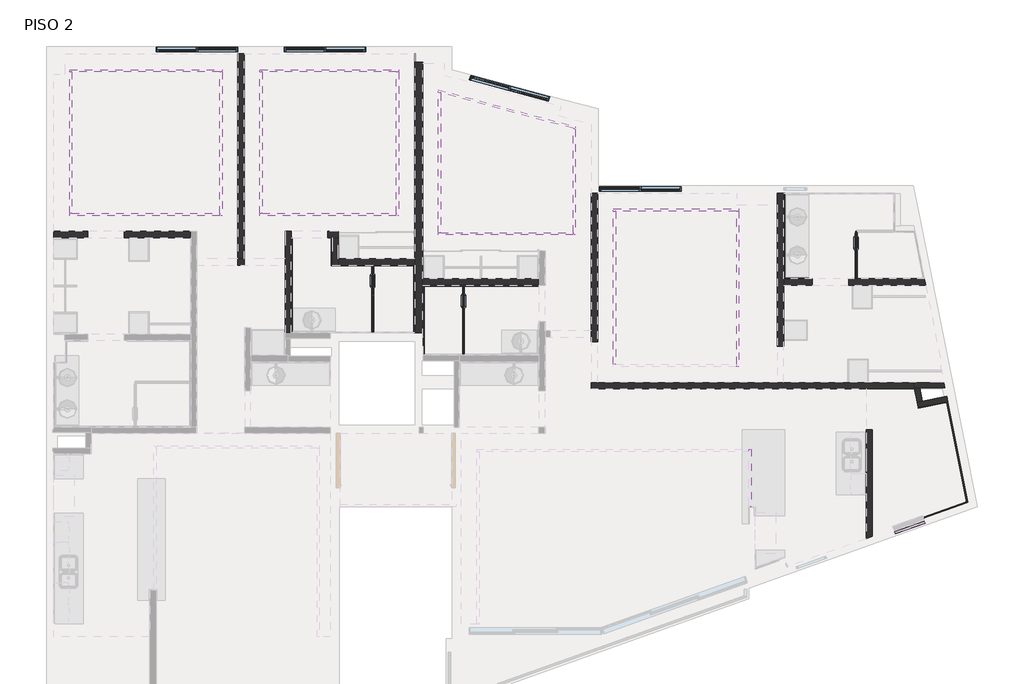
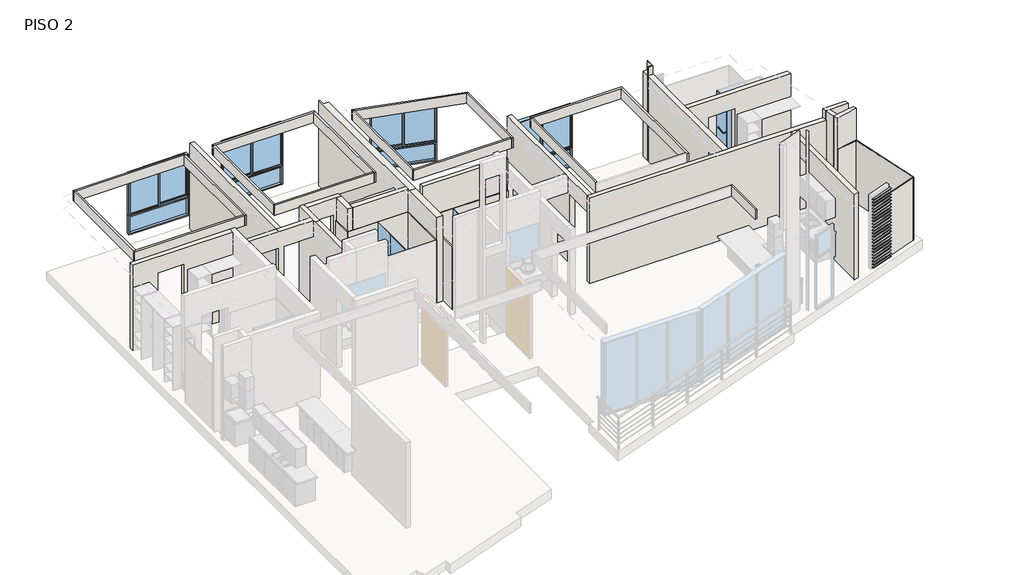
# One storey, part 2 of 3: 48 walls, 23 members, 7 windows.
"""IFC4 building model written with IfcOpenShell, lengths in millimetres."""

from ifc_helpers import new_model, si_unit, frame, origin, place, context, project, spatial, polyline, outline, extrude, faceted_brep, transform, mapped, element, save
from components import montante_rectangular_montante_rectangular_1_5x5_1b1c74e0, window_b75bd1a9, window_36b55308, window_db60b2a9, window_b7257eee, window_9818a119

model = new_model("IFC4")

# Units and contexts
model_context = context("Model", 3, world=origin())
ifc_project = project(units=[si_unit("LENGTHUNIT", "METRE", prefix="MILLI")], contexts=[model_context])

# Site, building, storey
site = spatial("IfcSite", under=ifc_project)
building = spatial("IfcBuilding", under=site)
storey = spatial("IfcBuildingStorey", under=building, Name="PISO 2", Elevation=6000.0)

# Members
placement = place(None, origin())
montante_rectangular_montante_rectangular_1_5x5_shape = montante_rectangular_montante_rectangular_1_5x5_1b1c74e0(model_context)
element("IfcMember", 1, ObjectType="Montante rectangular : Montante rectangular - 1.5x5", at=placement, inside=storey, context=model_context, shape_type="MappedRepresentation", body=[
    mapped(montante_rectangular_montante_rectangular_1_5x5_shape, transform((53319.7231991, 27770.5085935, 6091.0416667), x_axis=(0.0, 0.0, 1.0), y_axis=(0.3356769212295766, -0.9419771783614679, 0.0), z_axis=(0.9419771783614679, 0.3356769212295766, 0.0))),
])
element("IfcMember", 2, ObjectType="Montante rectangular : Montante rectangular - 1.5x5", at=placement, inside=storey, context=model_context, shape_type="MappedRepresentation", body=[
    mapped(montante_rectangular_montante_rectangular_1_5x5_shape, transform((53319.7231991, 27770.5085935, 6189.5833333), x_axis=(0.0, 0.0, 1.0), y_axis=(0.3356769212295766, -0.9419771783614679, 0.0), z_axis=(0.9419771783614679, 0.3356769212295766, 0.0))),
])
element("IfcMember", 3, ObjectType="Montante rectangular : Montante rectangular - 1.5x5", at=placement, inside=storey, context=model_context, shape_type="MappedRepresentation", body=[
    mapped(montante_rectangular_montante_rectangular_1_5x5_shape, transform((53319.7231991, 27770.5085935, 6288.125), x_axis=(0.0, 0.0, 1.0), y_axis=(0.3356769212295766, -0.9419771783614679, 0.0), z_axis=(0.9419771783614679, 0.3356769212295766, 0.0))),
])
element("IfcMember", 4, ObjectType="Montante rectangular : Montante rectangular - 1.5x5", at=placement, inside=storey, context=model_context, shape_type="MappedRepresentation", body=[
    mapped(montante_rectangular_montante_rectangular_1_5x5_shape, transform((53319.7231991, 27770.5085935, 6386.6666667), x_axis=(0.0, 0.0, 1.0), y_axis=(0.3356769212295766, -0.9419771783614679, 0.0), z_axis=(0.9419771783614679, 0.3356769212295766, 0.0))),
])
element("IfcMember", 5, ObjectType="Montante rectangular : Montante rectangular - 1.5x5", at=placement, inside=storey, context=model_context, shape_type="MappedRepresentation", body=[
    mapped(montante_rectangular_montante_rectangular_1_5x5_shape, transform((53319.7231991, 27770.5085935, 6485.2083333), x_axis=(0.0, 0.0, 1.0), y_axis=(0.3356769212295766, -0.9419771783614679, 0.0), z_axis=(0.9419771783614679, 0.3356769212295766, 0.0))),
])
element("IfcMember", 6, ObjectType="Montante rectangular : Montante rectangular - 1.5x5", at=placement, inside=storey, context=model_context, shape_type="MappedRepresentation", body=[
    mapped(montante_rectangular_montante_rectangular_1_5x5_shape, transform((53319.7231991, 27770.5085935, 6583.75), x_axis=(0.0, 0.0, 1.0), y_axis=(0.3356769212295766, -0.9419771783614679, 0.0), z_axis=(0.9419771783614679, 0.3356769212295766, 0.0))),
])
element("IfcMember", 7, ObjectType="Montante rectangular : Montante rectangular - 1.5x5", at=placement, inside=storey, context=model_context, shape_type="MappedRepresentation", body=[
    mapped(montante_rectangular_montante_rectangular_1_5x5_shape, transform((53319.7231991, 27770.5085935, 6682.2916667), x_axis=(0.0, 0.0, 1.0), y_axis=(0.3356769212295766, -0.9419771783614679, 0.0), z_axis=(0.9419771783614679, 0.3356769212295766, 0.0))),
])
element("IfcMember", 8, ObjectType="Montante rectangular : Montante rectangular - 1.5x5", at=placement, inside=storey, context=model_context, shape_type="MappedRepresentation", body=[
    mapped(montante_rectangular_montante_rectangular_1_5x5_shape, transform((53319.7231991, 27770.5085935, 6780.8333333), x_axis=(0.0, 0.0, 1.0), y_axis=(0.3356769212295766, -0.9419771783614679, 0.0), z_axis=(0.9419771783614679, 0.3356769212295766, 0.0))),
])
element("IfcMember", 9, ObjectType="Montante rectangular : Montante rectangular - 1.5x5", at=placement, inside=storey, context=model_context, shape_type="MappedRepresentation", body=[
    mapped(montante_rectangular_montante_rectangular_1_5x5_shape, transform((53319.7231991, 27770.5085935, 6879.375), x_axis=(0.0, 0.0, 1.0), y_axis=(0.3356769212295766, -0.9419771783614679, 0.0), z_axis=(0.9419771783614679, 0.3356769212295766, 0.0))),
])
element("IfcMember", 10, ObjectType="Montante rectangular : Montante rectangular - 1.5x5", at=placement, inside=storey, context=model_context, shape_type="MappedRepresentation", body=[
    mapped(montante_rectangular_montante_rectangular_1_5x5_shape, transform((53319.7231991, 27770.5085935, 6977.9166667), x_axis=(0.0, 0.0, 1.0), y_axis=(0.3356769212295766, -0.9419771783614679, 0.0), z_axis=(0.9419771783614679, 0.3356769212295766, 0.0))),
])
element("IfcMember", 11, ObjectType="Montante rectangular : Montante rectangular - 1.5x5", at=placement, inside=storey, context=model_context, shape_type="MappedRepresentation", body=[
    mapped(montante_rectangular_montante_rectangular_1_5x5_shape, transform((53319.7231991, 27770.5085935, 7076.4583333), x_axis=(0.0, 0.0, 1.0), y_axis=(0.3356769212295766, -0.9419771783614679, 0.0), z_axis=(0.9419771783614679, 0.3356769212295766, 0.0))),
])
element("IfcMember", 12, ObjectType="Montante rectangular : Montante rectangular - 1.5x5", at=placement, inside=storey, context=model_context, shape_type="MappedRepresentation", body=[
    mapped(montante_rectangular_montante_rectangular_1_5x5_shape, transform((53319.7231991, 27770.5085935, 7175.0), x_axis=(0.0, 0.0, 1.0), y_axis=(0.3356769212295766, -0.9419771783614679, 0.0), z_axis=(0.9419771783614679, 0.3356769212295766, 0.0))),
])
element("IfcMember", 13, ObjectType="Montante rectangular : Montante rectangular - 1.5x5", at=placement, inside=storey, context=model_context, shape_type="MappedRepresentation", body=[
    mapped(montante_rectangular_montante_rectangular_1_5x5_shape, transform((53319.7231991, 27770.5085935, 7273.5416667), x_axis=(0.0, 0.0, 1.0), y_axis=(0.3356769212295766, -0.9419771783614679, 0.0), z_axis=(0.9419771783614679, 0.3356769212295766, 0.0))),
])
element("IfcMember", 14, ObjectType="Montante rectangular : Montante rectangular - 1.5x5", at=placement, inside=storey, context=model_context, shape_type="MappedRepresentation", body=[
    mapped(montante_rectangular_montante_rectangular_1_5x5_shape, transform((53319.7231991, 27770.5085935, 7372.0833333), x_axis=(0.0, 0.0, 1.0), y_axis=(0.3356769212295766, -0.9419771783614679, 0.0), z_axis=(0.9419771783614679, 0.3356769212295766, 0.0))),
])
element("IfcMember", 15, ObjectType="Montante rectangular : Montante rectangular - 1.5x5", at=placement, inside=storey, context=model_context, shape_type="MappedRepresentation", body=[
    mapped(montante_rectangular_montante_rectangular_1_5x5_shape, transform((53319.7231991, 27770.5085935, 7470.625), x_axis=(0.0, 0.0, 1.0), y_axis=(0.3356769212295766, -0.9419771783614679, 0.0), z_axis=(0.9419771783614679, 0.3356769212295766, 0.0))),
])
element("IfcMember", 16, ObjectType="Montante rectangular : Montante rectangular - 1.5x5", at=placement, inside=storey, context=model_context, shape_type="MappedRepresentation", body=[
    mapped(montante_rectangular_montante_rectangular_1_5x5_shape, transform((53319.7231991, 27770.5085935, 7569.1666667), x_axis=(0.0, 0.0, 1.0), y_axis=(0.3356769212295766, -0.9419771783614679, 0.0), z_axis=(0.9419771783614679, 0.3356769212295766, 0.0))),
])
element("IfcMember", 17, ObjectType="Montante rectangular : Montante rectangular - 1.5x5", at=placement, inside=storey, context=model_context, shape_type="MappedRepresentation", body=[
    mapped(montante_rectangular_montante_rectangular_1_5x5_shape, transform((53319.7231991, 27770.5085935, 7667.7083333), x_axis=(0.0, 0.0, 1.0), y_axis=(0.3356769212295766, -0.9419771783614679, 0.0), z_axis=(0.9419771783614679, 0.3356769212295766, 0.0))),
])
element("IfcMember", 18, ObjectType="Montante rectangular : Montante rectangular - 1.5x5", at=placement, inside=storey, context=model_context, shape_type="MappedRepresentation", body=[
    mapped(montante_rectangular_montante_rectangular_1_5x5_shape, transform((53319.7231991, 27770.5085935, 7766.25), x_axis=(0.0, 0.0, 1.0), y_axis=(0.3356769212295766, -0.9419771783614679, 0.0), z_axis=(0.9419771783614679, 0.3356769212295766, 0.0))),
])
element("IfcMember", 19, ObjectType="Montante rectangular : Montante rectangular - 1.5x5", at=placement, inside=storey, context=model_context, shape_type="MappedRepresentation", body=[
    mapped(montante_rectangular_montante_rectangular_1_5x5_shape, transform((53319.7231991, 27770.5085935, 7864.7916667), x_axis=(0.0, 0.0, 1.0), y_axis=(0.3356769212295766, -0.9419771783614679, 0.0), z_axis=(0.9419771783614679, 0.3356769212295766, 0.0))),
])
element("IfcMember", 20, ObjectType="Montante rectangular : Montante rectangular - 1.5x5", at=placement, inside=storey, context=model_context, shape_type="MappedRepresentation", body=[
    mapped(montante_rectangular_montante_rectangular_1_5x5_shape, transform((53319.7231991, 27770.5085935, 7963.3333333), x_axis=(0.0, 0.0, 1.0), y_axis=(0.3356769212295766, -0.9419771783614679, 0.0), z_axis=(0.9419771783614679, 0.3356769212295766, 0.0))),
])
element("IfcMember", 21, ObjectType="Montante rectangular : Montante rectangular - 1.5x5", at=placement, inside=storey, context=model_context, shape_type="MappedRepresentation", body=[
    mapped(montante_rectangular_montante_rectangular_1_5x5_shape, transform((53319.7231991, 27770.5085935, 8061.875), x_axis=(0.0, 0.0, 1.0), y_axis=(0.3356769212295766, -0.9419771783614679, 0.0), z_axis=(0.9419771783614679, 0.3356769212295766, 0.0))),
])
element("IfcMember", 22, ObjectType="Montante rectangular : Montante rectangular - 1.5x5", at=placement, inside=storey, context=model_context, shape_type="MappedRepresentation", body=[
    mapped(montante_rectangular_montante_rectangular_1_5x5_shape, transform((53319.7231991, 27770.5085935, 8160.4166667), x_axis=(0.0, 0.0, 1.0), y_axis=(0.3356769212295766, -0.9419771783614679, 0.0), z_axis=(0.9419771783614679, 0.3356769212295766, 0.0))),
])
element("IfcMember", 23, ObjectType="Montante rectangular : Montante rectangular - 1.5x5", at=placement, inside=storey, context=model_context, shape_type="MappedRepresentation", body=[
    mapped(montante_rectangular_montante_rectangular_1_5x5_shape, transform((53319.7231991, 27770.5085935, 8258.9583333), x_axis=(0.0, 0.0, 1.0), y_axis=(0.3356769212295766, -0.9419771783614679, 0.0), z_axis=(0.9419771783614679, 0.3356769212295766, 0.0))),
])

# Walls
element("IfcWall", 24, ObjectType="Muro block 12cms_int_ductos", at=placement, inside=storey, context=model_context, shape_type="Brep", body=[
    faceted_brep([(53085.5419689, 30724.0100923, 9000.0), (53085.5419689, 30724.0100923, 6000.0), (53207.9252394, 30724.0100923, 6000.0), (53760.5143431, 30724.0100923, 6000.0), (53760.5143431, 30724.0100923, 9000.0), (53207.9252394, 30724.0100923, 9000.0), (53061.5073088, 30844.0100923, 6000.0), (53061.5073088, 30844.0100923, 8720.0), (53061.5073088, 30844.0100923, 9000.0), (53736.479683, 30844.0100923, 9000.0), (53736.479683, 30844.0100923, 6000.0)], [[[0, 1, 2, 3, 4, 5]], [[6, 7, 8, 9, 10]], [[3, 2, 1, 6, 10]], [[0, 5, 4, 9, 8]], [[0, 8, 7, 6, 1]], [[4, 3, 10, 9]]]),
])
element("IfcWall", 25, ObjectType="Muro block 12cms_int_ductos", at=placement, inside=storey, context=model_context, shape_type="Brep", body=[
    faceted_brep([(53171.4946911, 30294.866239, 9000.0), (53820.4344465, 30424.8416261, 9000.0), (53796.8678331, 30542.5047671, 9000.0), (53265.5912187, 30436.0959933, 9000.0), (53147.9280777, 30412.5293799, 9000.0), (53171.4946911, 30294.866239, 6000.0), (53820.4344465, 30424.8416261, 6000.0), (53147.9280777, 30412.5293799, 6000.0), (53796.8678331, 30542.5047671, 6000.0), (53265.5912187, 30436.0959933, 6000.0)], [[[0, 1, 2, 3, 4]], [[5, 6, 1, 0]], [[7, 4, 3, 2, 8, 9]], [[6, 5, 7, 9, 8]], [[5, 0, 4, 7]], [[6, 8, 2, 1]]]),
])
element("IfcWall", 26, ObjectType="Muro block 12cms_int_ductos", at=placement, inside=storey, context=model_context, shape_type="Brep", body=[
    faceted_brep([(53265.5912187, 30436.0959933, 9000.0), (53207.9252394, 30724.0100923, 9000.0), (53085.5419689, 30724.0100923, 9000.0), (53147.9280777, 30412.5293799, 9000.0), (53265.5912187, 30436.0959933, 6000.0), (53207.9252394, 30724.0100923, 6000.0), (53147.9280777, 30412.5293799, 6000.0), (53085.5419689, 30724.0100923, 6000.0), (53089.5477456, 30704.0100923, 6000.0)], [[[0, 1, 2, 3]], [[4, 5, 1, 0]], [[6, 3, 2, 7, 8]], [[5, 4, 6, 8, 7]], [[4, 0, 3, 6]], [[5, 7, 2, 1]]]),
])
element("IfcWall", 27, ObjectType="Cerámica baño", at=placement, inside=storey, context=model_context, shape_type="Brep", body=[
    faceted_brep([(40249.5059119, 33408.9784839, 6000.0), (42064.5059119, 33408.9784839, 6000.0), (42084.5059119, 33408.9784839, 6000.0), (42084.5059119, 33408.9784839, 8000.0), (42064.5059119, 33408.9784839, 8000.0), (40249.5059119, 33408.9784839, 8000.0), (40249.5059119, 33428.9784839, 6000.0), (40249.5059119, 33428.9784839, 8000.0), (40269.5059119, 33428.9784839, 8000.0), (42084.5059119, 33428.9784839, 8000.0), (42084.5059119, 33428.9784839, 6000.0), (40269.5059119, 33428.9784839, 6000.0)], [[[0, 1, 2, 3, 4, 5]], [[6, 7, 8, 9, 10, 11]], [[2, 1, 0, 6, 11, 10]], [[5, 4, 3, 9, 8, 7]], [[3, 2, 10, 9]], [[0, 5, 7, 6]]]),
])
element("IfcWall", 28, ObjectType="Cerámica baño", at=placement, inside=storey, context=model_context, shape_type="Brep", body=[
    faceted_brep([(42064.5059119, 33408.9784839, 6000.0), (42064.5059119, 31953.9733508, 6000.0), (42064.5059119, 31933.9733508, 6000.0), (42064.5059119, 31933.9733508, 8000.0), (42064.5059119, 31953.9733508, 8000.0), (42064.5059119, 33408.9784839, 8000.0), (42084.5059119, 33408.9784839, 6000.0), (42084.5059119, 33408.9784839, 8000.0), (42084.5059119, 31933.9733508, 8000.0), (42084.5059119, 31933.9733508, 6000.0)], [[[0, 1, 2, 3, 4, 5]], [[6, 7, 8, 9]], [[2, 1, 0, 6, 9]], [[5, 4, 3, 8, 7]], [[3, 2, 9, 8]], [[0, 5, 7, 6]]]),
])
element("IfcWall", 29, ObjectType="Cerámica baño", at=placement, inside=storey, context=model_context, shape_type="Brep", body=[
    faceted_brep([(50769.4822189, 33144.0113812, 6000.0), (50234.4822189, 33144.0113812, 6000.0), (50214.4822189, 33144.0113812, 6000.0), (50214.4822189, 33144.0113812, 8000.0), (50234.4822189, 33144.0113812, 8000.0), (50769.4822189, 33144.0113812, 8000.0), (50769.4822189, 33124.0113812, 6000.0), (50769.4822189, 33124.0113812, 8000.0), (50214.4822189, 33124.0113812, 8000.0), (50214.4822189, 33124.0113812, 6000.0)], [[[0, 1, 2, 3, 4, 5]], [[6, 7, 8, 9]], [[2, 1, 0, 6, 9]], [[5, 4, 3, 8, 7]], [[0, 5, 7, 6]], [[3, 2, 9, 8]]]),
])
element("IfcWall", 30, ObjectType="Cerámica baño", at=placement, inside=storey, context=model_context, shape_type="Brep", body=[
    faceted_brep([(50234.4822189, 33144.0113812, 6000.0), (50234.4822189, 34994.0104642, 6000.0), (50234.4822189, 35014.0104642, 6000.0), (50234.4822189, 35014.0104642, 8000.0), (50234.4822189, 34994.0104642, 8000.0), (50234.4822189, 33144.0113812, 8000.0), (50214.4822189, 33144.0113812, 6000.0), (50214.4822189, 33144.0113812, 8000.0), (50214.4822189, 35014.0104642, 8000.0), (50214.4822189, 35014.0104642, 6000.0)], [[[0, 1, 2, 3, 4, 5]], [[6, 7, 8, 9]], [[2, 1, 0, 6, 9]], [[5, 4, 3, 8, 7]], [[0, 5, 7, 6]], [[3, 2, 9, 8]]]),
])
element("IfcWall", 31, ObjectType="Cerámica baño", at=placement, inside=storey, context=model_context, shape_type="Brep", body=[
    faceted_brep([(42299.5059119, 31464.0104754, 6000.0), (42299.5059119, 32963.9839575, 6000.0), (42299.5059119, 32983.9839575, 6000.0), (42299.5059119, 32983.9839575, 8000.0), (42299.5059119, 32963.9839575, 8000.0), (42299.5059119, 31464.0104754, 8000.0), (42279.5059119, 31464.0104754, 6000.0), (42279.5059119, 31464.0104754, 8000.0), (42279.5059119, 32983.9839575, 8000.0), (42279.5059119, 32983.9839575, 6000.0)], [[[0, 1, 2, 3, 4, 5]], [[6, 7, 8, 9]], [[2, 1, 0, 6, 9]], [[5, 4, 3, 8, 7]], [[3, 2, 9, 8]], [[0, 5, 7, 6]]]),
])
element("IfcWall", 32, ObjectType="Cerámica baño", at=placement, inside=storey, context=model_context, shape_type="SweptSolid", body=[
    extrude(outline(polyline([(44824.5251366, 32963.9839575), (42299.5059119, 32963.9839575), (42299.5059119, 32983.9839575), (44824.5251366, 32983.9839575), (44824.5251366, 32963.9839575)])), frame((0.0, 0.0, 6000.0), z_axis=(0.0, 0.0, 1.0), x_axis=(1.0, 0.0, 0.0)), (0.0, 0.0, 1.0), 2000.0),
])
element("IfcWall", 33, ObjectType="Cerámica baño", at=placement, inside=storey, context=model_context, shape_type="SweptSolid", body=[
    extrude(outline(polyline([(39394.5300226, 34028.9785701), (39394.5300226, 31953.9733508), (39374.5300226, 31953.9733508), (39374.5300226, 34028.9785701), (39394.5300226, 34028.9785701)])), frame((0.0, 0.0, 6000.0), z_axis=(0.0, 0.0, 1.0), x_axis=(1.0, 0.0, 0.0)), (0.0, 0.0, 1.0), 2000.0),
])
element("IfcWall", 34, ObjectType="Cerámica baño", at=placement, inside=storey, context=model_context, shape_type="SweptSolid", body=[
    extrude(outline(polyline([(40269.5059119, 34028.9785701), (40269.5059119, 33428.9784839), (40249.5059119, 33428.9784839), (40249.5059119, 34028.9785701), (40269.5059119, 34028.9785701)])), frame((0.0, 0.0, 6000.0), z_axis=(0.0, 0.0, 1.0), x_axis=(1.0, 0.0, 0.0)), (0.0, 0.0, 1.0), 2000.0),
])
element("IfcWall", 35, ObjectType="Cerámica baño", at=placement, inside=storey, context=model_context, shape_type="Brep", body=[
    faceted_brep([(53175.42246, 30275.2557155, 6000.0), (53804.7516919, 30401.3033338, 6000.0), (53824.3622153, 30405.2311027, 6000.0), (53824.3622153, 30405.2311027, 8000.0), (53804.7516919, 30401.3033338, 8000.0), (53175.42246, 30275.2557155, 8000.0), (53171.4946911, 30294.866239, 6000.0), (53171.4946911, 30294.866239, 8000.0), (53820.4344465, 30424.8416261, 8000.0), (53820.4344465, 30424.8416261, 6000.0)], [[[0, 1, 2, 3, 4, 5]], [[6, 7, 8, 9]], [[2, 1, 0, 6, 9]], [[5, 4, 3, 8, 7]], [[0, 5, 7, 6]], [[3, 2, 9, 8]]]),
])
element("IfcWall", 36, ObjectType="Cerámica baño", at=placement, inside=storey, context=model_context, shape_type="Brep", body=[
    faceted_brep([(53804.7516919, 30401.3033338, 6000.0), (54242.4250551, 28216.0923378, 6000.0), (54246.3942771, 28196.2748474, 6000.0), (54246.3942771, 28196.2748474, 8000.0), (54242.4250551, 28216.0923378, 8000.0), (53804.7516919, 30401.3033338, 8000.0), (53824.3622153, 30405.2311027, 6000.0), (53824.3622153, 30405.2311027, 8000.0), (54265.4326509, 28203.0592396, 8000.0), (54265.4326509, 28203.0592396, 6000.0)], [[[0, 1, 2, 3, 4, 5]], [[6, 7, 8, 9]], [[2, 1, 0, 6, 9]], [[5, 4, 3, 8, 7]], [[3, 2, 9, 8]], [[0, 5, 7, 6]]]),
])
element("IfcWall", 37, ObjectType="Cerámica baño", at=placement, inside=storey, context=model_context, shape_type="SweptSolid", body=[
    extrude(outline(polyline([(54246.3942771, 28196.2748474), (53289.5122761, 27855.2865395), (53282.7987377, 27874.1260831), (54242.4250551, 28216.0923378), (54246.3942771, 28196.2748474)])), frame((0.0, 0.0, 6000.0), z_axis=(0.0, 0.0, 1.0), x_axis=(1.0, 0.0, 0.0)), (0.0, 0.0, 1.0), 2000.0),
])
element("IfcWall", 38, ObjectType="Plafond tablaroca", at=placement, inside=storey, context=model_context, shape_type="Brep", body=[
    faceted_brep([(34491.1589874, 37680.4026232, 8402.7), (34543.8589874, 37680.4026232, 8402.7), (37794.5300226, 37680.4026232, 8402.7), (37847.2300226, 37680.4026232, 8402.7), (37847.2300226, 37680.4026232, 8720.0), (37794.5300226, 37680.4026232, 8720.0), (34543.8589874, 37680.4026232, 8720.0), (34491.1589874, 37680.4026232, 8720.0), (34491.1589874, 37733.1026232, 8402.7), (34491.1589874, 37733.1026232, 8720.0), (37847.2300226, 37733.1026232, 8720.0), (37847.2300226, 37733.1026232, 8402.7)], [[[0, 1, 2, 3, 4, 5, 6, 7]], [[8, 9, 10, 11]], [[4, 3, 11, 10]], [[0, 7, 9, 8]], [[7, 6, 5, 4, 10, 9]], [[3, 2, 1, 0, 8, 11]]]),
])
element("IfcWall", 39, ObjectType="Plafond tablaroca", at=placement, inside=storey, context=model_context, shape_type="Brep", body=[
    faceted_brep([(37794.5300226, 37680.4026232, 8402.7), (37794.5300226, 34568.9785701, 8402.7), (37794.5300226, 34516.2785701, 8402.7), (37794.5300226, 34516.2785701, 8720.0), (37794.5300226, 34568.9785701, 8720.0), (37794.5300226, 37680.4026232, 8720.0), (37847.2300226, 37680.4026232, 8402.7), (37847.2300226, 37680.4026232, 8720.0), (37847.2300226, 34516.2785701, 8720.0), (37847.2300226, 34516.2785701, 8402.7)], [[[0, 1, 2, 3, 4, 5]], [[6, 7, 8, 9]], [[0, 5, 7, 6]], [[3, 2, 9, 8]], [[2, 1, 0, 6, 9]], [[5, 4, 3, 8, 7]]]),
])
element("IfcWall", 40, ObjectType="Plafond tablaroca", at=placement, inside=storey, context=model_context, shape_type="Brep", body=[
    faceted_brep([(37794.5300226, 34568.9785701, 8402.7), (34543.8589874, 34568.9785701, 8402.7), (34491.1589874, 34568.9785701, 8402.7), (34491.1589874, 34568.9785701, 8720.0), (34543.8589874, 34568.9785701, 8720.0), (37794.5300226, 34568.9785701, 8720.0), (37794.5300226, 34516.2785701, 8402.7), (37794.5300226, 34516.2785701, 8720.0), (34491.1589874, 34516.2785701, 8720.0), (34491.1589874, 34516.2785701, 8402.7)], [[[0, 1, 2, 3, 4, 5]], [[6, 7, 8, 9]], [[0, 5, 7, 6]], [[3, 2, 9, 8]], [[5, 4, 3, 8, 7]], [[2, 1, 0, 6, 9]]]),
])
element("IfcWall", 41, ObjectType="Plafond tablaroca", at=placement, inside=storey, context=model_context, shape_type="SweptSolid", body=[
    extrude(outline(polyline([(34543.8589874, 37680.4026232), (34543.8589874, 34568.9785701), (34491.1589874, 34568.9785701), (34491.1589874, 37680.4026232), (34543.8589874, 37680.4026232)])), frame((0.0, 0.0, 8402.7), z_axis=(0.0, 0.0, 1.0), x_axis=(1.0, 0.0, 0.0)), (0.0, 0.0, 1.0), 317.3),
])
element("IfcWall", 42, ObjectType="Plafond tablaroca", at=placement, inside=storey, context=model_context, shape_type="Brep", body=[
    faceted_brep([(38681.8300226, 37680.4026232, 8402.7), (38734.5300226, 37680.4026232, 8402.7), (41684.5059119, 37680.4026232, 8402.7), (41737.2059119, 37680.4026232, 8402.7), (41737.2059119, 37680.4026232, 8720.0), (41684.5059119, 37680.4026232, 8720.0), (38734.5300226, 37680.4026232, 8720.0), (38681.8300226, 37680.4026232, 8720.0), (38681.8300226, 37733.1026232, 8402.7), (38681.8300226, 37733.1026232, 8720.0), (41737.2059119, 37733.1026232, 8720.0), (41737.2059119, 37733.1026232, 8402.7)], [[[0, 1, 2, 3, 4, 5, 6, 7]], [[8, 9, 10, 11]], [[4, 3, 11, 10]], [[0, 7, 9, 8]], [[3, 2, 1, 0, 8, 11]], [[7, 6, 5, 4, 10, 9]]]),
])
element("IfcWall", 43, ObjectType="Plafond tablaroca", at=placement, inside=storey, context=model_context, shape_type="Brep", body=[
    faceted_brep([(41684.5059119, 37680.4026232, 8402.7), (41684.5059119, 34568.9785701, 8402.7), (41684.5059119, 34516.2785701, 8402.7), (41684.5059119, 34516.2785701, 8720.0), (41684.5059119, 34568.9785701, 8720.0), (41684.5059119, 37680.4026232, 8720.0), (41737.2059119, 37680.4026232, 8402.7), (41737.2059119, 37680.4026232, 8720.0), (41737.2059119, 34516.2785701, 8720.0), (41737.2059119, 34516.2785701, 8402.7)], [[[0, 1, 2, 3, 4, 5]], [[6, 7, 8, 9]], [[0, 5, 7, 6]], [[3, 2, 9, 8]], [[2, 1, 0, 6, 9]], [[5, 4, 3, 8, 7]]]),
])
element("IfcWall", 44, ObjectType="Plafond tablaroca", at=placement, inside=storey, context=model_context, shape_type="Brep", body=[
    faceted_brep([(41684.5059119, 34568.9785701, 8402.7), (38734.5300226, 34568.9785701, 8402.7), (38681.8300226, 34568.9785701, 8402.7), (38681.8300226, 34568.9785701, 8720.0), (38734.5300226, 34568.9785701, 8720.0), (41684.5059119, 34568.9785701, 8720.0), (41684.5059119, 34516.2785701, 8402.7), (41684.5059119, 34516.2785701, 8720.0), (38681.8300226, 34516.2785701, 8720.0), (38681.8300226, 34516.2785701, 8402.7)], [[[0, 1, 2, 3, 4, 5]], [[6, 7, 8, 9]], [[0, 5, 7, 6]], [[3, 2, 9, 8]], [[2, 1, 0, 6, 9]], [[5, 4, 3, 8, 7]]]),
])
element("IfcWall", 45, ObjectType="Plafond tablaroca", at=placement, inside=storey, context=model_context, shape_type="SweptSolid", body=[
    extrude(outline(polyline([(38734.5300226, 37680.4026232), (38734.5300226, 34568.9785701), (38681.8300226, 34568.9785701), (38681.8300226, 37680.4026232), (38734.5300226, 37680.4026232)])), frame((0.0, 0.0, 8402.7), z_axis=(0.0, 0.0, 1.0), x_axis=(1.0, 0.0, 0.0)), (0.0, 0.0, 1.0), 317.3),
])
element("IfcWall", 46, ObjectType="Plafond tablaroca", at=placement, inside=storey, context=model_context, shape_type="Brep", body=[
    faceted_brep([(42611.8059119, 37233.5489662, 8402.7), (42664.5059119, 37219.3779563, 8402.7), (45574.5059119, 36436.8800645, 8402.7), (45627.2059119, 36422.7090546, 8402.7), (45627.2059119, 36422.7090546, 8720.0), (45574.5059119, 36436.8800645, 8720.0), (42664.5059119, 37219.3779563, 8720.0), (42611.8059119, 37233.5489662, 8720.0), (42611.8059119, 37288.121006, 8402.7), (42611.8059119, 37288.121006, 8720.0), (45627.2059119, 36477.2810943, 8720.0), (45627.2059119, 36477.2810943, 8402.7)], [[[0, 1, 2, 3, 4, 5, 6, 7]], [[8, 9, 10, 11]], [[4, 3, 11, 10]], [[0, 7, 9, 8]], [[3, 2, 1, 0, 8, 11]], [[7, 6, 5, 4, 10, 9]]]),
])
element("IfcWall", 47, ObjectType="Plafond tablaroca", at=placement, inside=storey, context=model_context, shape_type="Brep", body=[
    faceted_brep([(45574.5059119, 36436.8800645, 8402.7), (45574.5059119, 34144.0113905, 8402.7), (45574.5059119, 34091.3113905, 8402.7), (45574.5059119, 34091.3113905, 8720.0), (45574.5059119, 34144.0113905, 8720.0), (45574.5059119, 36436.8800645, 8720.0), (45627.2059119, 36422.7090546, 8402.7), (45627.2059119, 36422.7090546, 8720.0), (45627.2059119, 34091.3113905, 8720.0), (45627.2059119, 34091.3113905, 8402.7)], [[[0, 1, 2, 3, 4, 5]], [[6, 7, 8, 9]], [[0, 5, 7, 6]], [[3, 2, 9, 8]], [[2, 1, 0, 6, 9]], [[5, 4, 3, 8, 7]]]),
])
element("IfcWall", 48, ObjectType="Plafond tablaroca", at=placement, inside=storey, context=model_context, shape_type="Brep", body=[
    faceted_brep([(45574.5059119, 34144.0113905, 8402.7), (42664.5059119, 34144.0113905, 8402.7), (42611.8059119, 34144.0113905, 8402.7), (42611.8059119, 34144.0113905, 8720.0), (42664.5059119, 34144.0113905, 8720.0), (45574.5059119, 34144.0113905, 8720.0), (45574.5059119, 34091.3113905, 8402.7), (45574.5059119, 34091.3113905, 8720.0), (42611.8059119, 34091.3113905, 8720.0), (42611.8059119, 34091.3113905, 8402.7)], [[[0, 1, 2, 3, 4, 5]], [[6, 7, 8, 9]], [[0, 5, 7, 6]], [[3, 2, 9, 8]], [[2, 1, 0, 6, 9]], [[5, 4, 3, 8, 7]]]),
])
element("IfcWall", 49, ObjectType="Plafond tablaroca", at=placement, inside=storey, context=model_context, shape_type="SweptSolid", body=[
    extrude(outline(polyline([(42664.5059119, 37219.3779563), (42664.5059119, 34144.0113905), (42611.8059119, 34144.0113905), (42611.8059119, 37233.5489662), (42664.5059119, 37219.3779563)])), frame((0.0, 0.0, 8402.7), z_axis=(0.0, 0.0, 1.0), x_axis=(1.0, 0.0, 0.0)), (0.0, 0.0, 1.0), 317.3),
])
element("IfcWall", 50, ObjectType="Plafond tablaroca", at=placement, inside=storey, context=model_context, shape_type="Brep", body=[
    faceted_brep([(46461.8059119, 34614.0104642, 8402.7), (46514.5059119, 34614.0104642, 8402.7), (49174.4822189, 34614.0104642, 8402.7), (49227.1822189, 34614.0104642, 8402.7), (49227.1822189, 34614.0104642, 8720.0), (49174.4822189, 34614.0104642, 8720.0), (46514.5059119, 34614.0104642, 8720.0), (46461.8059119, 34614.0104642, 8720.0), (46461.8059119, 34666.7104642, 8402.7), (46461.8059119, 34666.7104642, 8720.0), (49227.1822189, 34666.7104642, 8720.0), (49227.1822189, 34666.7104642, 8402.7)], [[[0, 1, 2, 3, 4, 5, 6, 7]], [[8, 9, 10, 11]], [[4, 3, 11, 10]], [[0, 7, 9, 8]], [[3, 2, 1, 0, 8, 11]], [[7, 6, 5, 4, 10, 9]]]),
])
element("IfcWall", 51, ObjectType="Plafond tablaroca", at=placement, inside=storey, context=model_context, shape_type="Brep", body=[
    faceted_brep([(49174.4822189, 34614.0104642, 8402.7), (49174.4822189, 31244.0100923, 8402.7), (49174.4822189, 31191.3100923, 8402.7), (49174.4822189, 31191.3100923, 8720.0), (49174.4822189, 31244.0100923, 8720.0), (49174.4822189, 34614.0104642, 8720.0), (49227.1822189, 34614.0104642, 8402.7), (49227.1822189, 34614.0104642, 8720.0), (49227.1822189, 31191.3100923, 8720.0), (49227.1822189, 31191.3100923, 8402.7)], [[[0, 1, 2, 3, 4, 5]], [[6, 7, 8, 9]], [[0, 5, 7, 6]], [[3, 2, 9, 8]], [[2, 1, 0, 6, 9]], [[5, 4, 3, 8, 7]]]),
])
element("IfcWall", 52, ObjectType="Plafond tablaroca", at=placement, inside=storey, context=model_context, shape_type="SweptSolid", body=[
    extrude(outline(polyline([(46514.5059119, 34614.0104642), (46514.5059119, 31244.0100923), (46461.8059119, 31244.0100923), (46461.8059119, 34614.0104642), (46514.5059119, 34614.0104642)])), frame((0.0, 0.0, 8402.7), z_axis=(0.0, 0.0, 1.0), x_axis=(1.0, 0.0, 0.0)), (0.0, 0.0, 1.0), 317.3),
])
element("IfcWall", 53, ObjectType="Plafond tablaroca", at=placement, inside=storey, context=model_context, shape_type="Brep", body=[
    faceted_brep([(49444.5059119, 29376.710184, 8402.7), (49444.5059119, 29324.010184, 8402.7), (49444.5059119, 28111.0432167, 8402.7), (49444.5059119, 28111.0432167, 8720.0), (49444.5059119, 29324.010184, 8720.0), (49444.5059119, 29376.710184, 8720.0), (49497.2059119, 29376.710184, 8402.7), (49497.2059119, 29376.710184, 8720.0), (49497.2059119, 28111.0432167, 8720.0), (49497.2059119, 28111.0432167, 8402.7)], [[[0, 1, 2, 3, 4, 5]], [[6, 7, 8, 9]], [[3, 2, 9, 8]], [[0, 5, 7, 6]], [[2, 1, 0, 6, 9]], [[5, 4, 3, 8, 7]]]),
])
element("IfcWall", 54, ObjectType="Muro block 14cms_int", at=placement, inside=storey, context=model_context, shape_type="Brep", body=[
    faceted_brep([(50069.4822189, 34759.0104642, 6000.0), (50069.4822189, 34759.0104642, 9000.0), (50069.4822189, 34774.0104642, 9000.0), (50069.4822189, 34774.0104642, 6000.0), (50209.4822189, 34759.0104642, 6000.0), (50209.4822189, 35014.0104642, 6000.0), (50209.4822189, 35014.0104642, 9000.0), (50209.4822189, 34759.0104642, 9000.0), (50194.4822189, 34774.0104642, 6000.0), (50194.4822189, 35014.0104642, 6000.0), (50194.4822189, 35014.0104642, 9000.0), (50194.4822189, 34774.0104642, 9000.0), (50194.4822189, 35014.0104642, 8720.0)], [[[0, 1, 2, 3]], [[4, 5, 6, 7]], [[5, 4, 0, 3, 8, 9]], [[7, 6, 10, 11, 2, 1]], [[1, 0, 4, 7]], [[8, 11, 10, 12, 9]], [[11, 8, 3, 2]], [[6, 5, 9, 12, 10]]]),
])
element("IfcWall", 55, ObjectType="Muro block 14cms_int", at=placement, inside=storey, context=model_context, shape_type="SweptSolid", body=[
    extrude(outline(polyline([(6000.0, 37154.5300226), (8720.0, 37154.5300226), (8720.0, 34143.8589874), (6000.0, 34143.8589874), (6000.0, 34894.5300226), (8200.0, 34894.5300226), (8200.0, 35694.5300226), (6000.0, 35694.5300226), (6000.0, 37154.5300226)])), frame((0.0, 34028.9785701, 0.0), z_axis=(0.0, 1.0, 0.0), x_axis=(0.0, 0.0, 1.0)), (0.0, 0.0, 1.0), 140.0),
])
element("IfcWall", 56, ObjectType="Muro block 14cms_int", at=placement, inside=storey, context=model_context, shape_type="Brep", body=[
    faceted_brep([(38334.5300226, 33497.6613856, 6000.0), (38334.5300226, 38080.4026232, 6000.0), (38334.5300226, 38080.4026232, 8720.0), (38334.5300226, 33497.6613856, 8720.0), (38194.5300226, 33497.6613856, 6000.0), (38194.5300226, 33497.6613856, 8720.0), (38194.5300226, 38080.4026232, 8720.0), (38194.5300226, 38080.4026232, 8350.0), (38194.5300226, 38080.4026232, 6400.0), (38194.5300226, 38080.4026232, 6000.0)], [[[0, 1, 2, 3]], [[4, 5, 6, 7, 8, 9]], [[1, 0, 4, 9]], [[0, 3, 5, 4]], [[3, 2, 6, 5]], [[2, 1, 9, 8, 7, 6]]]),
])
element("IfcWall", 57, ObjectType="Muro block 14cms_int", at=placement, inside=storey, context=model_context, shape_type="Brep", body=[
    faceted_brep([(42264.5059119, 32984.0113856, 6000.0), (44824.5251366, 32984.0113856, 6000.0), (44824.5251366, 32984.0113856, 8300.0), (44824.5251366, 32984.0113856, 9000.0), (42264.5059119, 32984.0113856, 9000.0), (42264.5059119, 33124.0113856, 6000.0), (42264.5059119, 33124.0113856, 9000.0), (44824.5251366, 33124.0113856, 9000.0), (44824.5251366, 33124.0113856, 6000.0)], [[[0, 1, 2, 3, 4]], [[5, 6, 7, 8]], [[1, 0, 5, 8]], [[4, 3, 7, 6]], [[3, 2, 1, 8, 7]], [[0, 4, 6, 5]]]),
])
element("IfcWall", 58, ObjectType="Muro block 14cms_int", at=placement, inside=storey, context=model_context, shape_type="Brep", body=[
    faceted_brep([(52164.4822189, 30704.0100923, 8720.0), (52164.4822189, 27454.3780732, 8720.0), (52164.4822189, 27454.3780732, 6000.0), (52164.4822189, 29804.0100923, 6000.0), (52164.4822189, 29804.0100923, 8200.0), (52164.4822189, 30704.0100923, 8200.0), (52024.4822189, 27404.4885747, 8720.0), (52024.4822189, 30704.0100923, 8720.0), (52024.4822189, 30704.0100923, 8200.0), (52024.4822189, 29804.0100923, 8200.0), (52024.4822189, 29804.0100923, 6000.0), (52024.4822189, 27404.4885747, 6000.0)], [[[0, 1, 2, 3, 4, 5]], [[6, 7, 8, 9, 10, 11]], [[2, 11, 10, 3]], [[4, 9, 8, 5]], [[9, 4, 3, 10]], [[7, 0, 5, 8]], [[1, 0, 7, 6]], [[2, 1, 6, 11]]]),
])
element("IfcWall", 59, ObjectType="Muro block 14cms_int", at=placement, inside=storey, context=model_context, shape_type="Brep", body=[
    faceted_brep([(45974.5059119, 30844.0100923, 8720.0), (45974.5059119, 31844.0100923, 8720.0), (45974.5059119, 31984.0100923, 8720.0), (45974.5059119, 35014.0104642, 8720.0), (45974.5059119, 35014.0104642, 6000.0), (45974.5059119, 31744.0100923, 6000.0), (45974.5059119, 31744.0100923, 8200.0), (45974.5059119, 30844.0100923, 8200.0), (46114.5059119, 35014.0104642, 8720.0), (46114.5059119, 30844.0100923, 8720.0), (46114.5059119, 30844.0100923, 8200.0), (46114.5059119, 31744.0100923, 8200.0), (46114.5059119, 31744.0100923, 6000.0), (46114.5059119, 35014.0104642, 6000.0)], [[[0, 1, 2, 3, 4, 5, 6, 7]], [[8, 9, 10, 11, 12, 13]], [[4, 13, 12, 5]], [[6, 11, 10, 7]], [[11, 6, 5, 12]], [[9, 0, 7, 10]], [[3, 2, 1, 0, 9, 8]], [[4, 3, 8, 13]]]),
])
element("IfcWall", 60, ObjectType="Muro block 14cms_int", at=placement, inside=storey, context=model_context, shape_type="Brep", body=[
    faceted_brep([(50074.4822189, 30844.0100923, 8720.0), (50074.4822189, 35014.0104642, 8720.0), (50074.4822189, 35014.0104642, 6000.0), (50074.4822189, 31644.0100923, 6000.0), (50074.4822189, 31644.0100923, 8200.0), (50074.4822189, 30844.0100923, 8200.0), (50214.4822189, 35014.0104642, 8720.0), (50214.4822189, 33124.0113812, 8720.0), (50214.4822189, 32984.0113812, 8720.0), (50214.4822189, 30844.0100923, 8720.0), (50214.4822189, 30844.0100923, 8200.0), (50214.4822189, 31644.0100923, 8200.0), (50214.4822189, 31644.0100923, 6000.0), (50214.4822189, 32984.0113812, 6000.0), (50214.4822189, 33124.0113812, 6000.0), (50214.4822189, 35014.0104642, 6000.0), (50214.4822189, 35014.0104642, 7000.0), (50214.4822189, 35014.0104642, 8350.0), (50194.4822189, 35014.0104642, 6000.0), (50194.4822189, 35014.0104642, 8720.0)], [[[0, 1, 2, 3, 4, 5]], [[6, 7, 8, 9, 10, 11, 12, 13, 14, 15, 16, 17]], [[2, 18, 15, 14, 13, 12, 3]], [[4, 11, 10, 5]], [[11, 4, 3, 12]], [[9, 0, 5, 10]], [[1, 0, 9, 8, 7, 6, 19]], [[2, 1, 19, 6, 17, 16, 15, 18]]]),
])
element("IfcWall", 61, ObjectType="Muro block 14cms_int", at=placement, inside=storey, context=model_context, shape_type="Brep", body=[
    faceted_brep([(50214.4822189, 33124.0113812, 6000.0), (50214.4822189, 33124.0113812, 8720.0), (53310.4167001, 33124.0113812, 8720.0), (53310.4167001, 33124.0113812, 6000.0), (51644.4822189, 33124.0113812, 6000.0), (51644.4822189, 33124.0113812, 8200.0), (50844.4822189, 33124.0113812, 8200.0), (50844.4822189, 33124.0113812, 6000.0), (50214.4822189, 32984.0113812, 8720.0), (50214.4822189, 32984.0113812, 6000.0), (50844.4822189, 32984.0113812, 6000.0), (50844.4822189, 32984.0113812, 8200.0), (51644.4822189, 32984.0113812, 8200.0), (51644.4822189, 32984.0113812, 6000.0), (53338.4571369, 32984.0113812, 6000.0), (53338.4571369, 32984.0113812, 8720.0)], [[[0, 1, 2, 3, 4, 5, 6, 7]], [[8, 9, 10, 11, 12, 13, 14, 15]], [[9, 0, 7, 10]], [[3, 14, 13, 4]], [[1, 0, 9, 8]], [[6, 11, 10, 7]], [[11, 6, 5, 12]], [[12, 5, 4, 13]], [[2, 1, 8, 15]], [[3, 2, 15, 14]]]),
])
element("IfcWall", 62, ObjectType="Muro block 14cms_int", at=placement, inside=storey, context=model_context, shape_type="Brep", body=[
    faceted_brep([(39374.5300226, 31933.9733508, 6000.0), (39374.5300226, 34168.9785701, 6000.0), (39374.5300226, 34168.9785701, 8200.0), (39374.5300226, 34168.9785701, 8720.0), (39374.5300226, 34028.9785701, 8720.0), (39374.5300226, 33348.9733508, 8720.0), (39374.5300226, 31933.9733508, 8720.0), (39234.5300226, 31933.9733508, 6000.0), (39234.5300226, 31933.9733508, 8720.0), (39234.5300226, 33348.9733508, 8720.0), (39234.5300226, 33428.9784839, 8720.0), (39234.5300226, 33568.9784839, 8720.0), (39234.5300226, 34168.9785701, 8720.0), (39234.5300226, 34168.9785701, 6000.0)], [[[0, 1, 2, 3, 4, 5, 6]], [[7, 8, 9, 10, 11, 12, 13]], [[1, 0, 7, 13]], [[0, 6, 8, 7]], [[3, 2, 1, 13, 12]], [[6, 5, 9, 8]], [[5, 4, 3, 12, 11, 10, 9]]]),
])
element("IfcWall", 63, ObjectType="Muro block 14cms_int", at=placement, inside=storey, context=model_context, shape_type="Brep", body=[
    faceted_brep([(40409.5059119, 34028.9785701, 8720.0), (40269.5059119, 34028.9785701, 8720.0), (39374.5300226, 34028.9785701, 8720.0), (39374.5300226, 34028.9785701, 8200.0), (40174.5300226, 34028.9785701, 8200.0), (40174.5300226, 34028.9785701, 6000.0), (40249.5059119, 34028.9785701, 6000.0), (40269.5059119, 34028.9785701, 6000.0), (40409.5059119, 34028.9785701, 6000.0), (39374.5300226, 34168.9785701, 8720.0), (40409.5059119, 34168.9785701, 8720.0), (40409.5059119, 34168.9785701, 6000.0), (40174.5300226, 34168.9785701, 6000.0), (40174.5300226, 34168.9785701, 8200.0), (39374.5300226, 34168.9785701, 8200.0)], [[[0, 1, 2, 3, 4, 5, 6, 7, 8]], [[9, 10, 11, 12, 13, 14]], [[11, 8, 7, 6, 5, 12]], [[2, 9, 14, 3]], [[13, 4, 3, 14]], [[4, 13, 12, 5]], [[2, 1, 0, 10, 9]], [[8, 11, 10, 0]]]),
])
element("IfcWall", 64, ObjectType="Muro block 14cms_int", at=placement, inside=storey, context=model_context, shape_type="Brep", body=[
    faceted_brep([(40269.5059119, 34028.9785701, 6000.0), (40269.5059119, 33428.9784839, 6000.0), (40269.5059119, 33428.9784839, 8720.0), (40269.5059119, 34028.9785701, 8720.0), (40409.5059119, 34028.9785701, 6000.0), (40409.5059119, 34028.9785701, 8720.0), (40409.5059119, 33568.9784839, 8720.0), (40409.5059119, 33428.9784839, 8720.0), (40409.5059119, 33428.9784839, 6000.0), (40409.5059119, 33568.9784839, 6000.0)], [[[0, 1, 2, 3]], [[4, 5, 6, 7, 8, 9]], [[1, 0, 4, 9, 8]], [[0, 3, 5, 4]], [[2, 1, 8, 7]], [[3, 2, 7, 6, 5]]]),
])
element("IfcWall", 65, ObjectType="Muro block 14cms_int", at=placement, inside=storey, context=model_context, shape_type="SweptSolid", body=[
    extrude(outline(polyline([(42084.5059119, 33428.9784839), (40409.5059119, 33428.9784839), (40409.5059119, 33568.9784839), (42084.5059119, 33568.9784839), (42084.5059119, 33428.9784839)])), frame((0.0, 0.0, 6000.0), z_axis=(0.0, 0.0, 1.0), x_axis=(1.0, 0.0, 0.0)), (0.0, 0.0, 1.0), 2720.0),
])
element("IfcWall", 66, ObjectType="Muro block 14cms_int", at=placement, inside=storey, context=model_context, shape_type="Brep", body=[
    faceted_brep([(45974.5059119, 30704.0100923, 6000.0), (53089.5477456, 30704.0100923, 6000.0), (53089.5477456, 30704.0100923, 8720.0), (52164.4822189, 30704.0100923, 8720.0), (52024.4822189, 30704.0100923, 8720.0), (45974.5059119, 30704.0100923, 8720.0), (45974.5059119, 30844.0100923, 6000.0), (45974.5059119, 30844.0100923, 8200.0), (45974.5059119, 30844.0100923, 8720.0), (46114.5059119, 30844.0100923, 8720.0), (50074.4822189, 30844.0100923, 8720.0), (50214.4822189, 30844.0100923, 8720.0), (53061.5073088, 30844.0100923, 8720.0), (53061.5073088, 30844.0100923, 6000.0), (53085.5419689, 30724.0100923, 6000.0)], [[[0, 1, 2, 3, 4, 5]], [[6, 7, 8, 9, 10, 11, 12, 13]], [[1, 0, 6, 13, 14]], [[0, 5, 8, 7, 6]], [[2, 1, 14, 13, 12]], [[5, 4, 3, 2, 12, 11, 10, 9, 8]]]),
])
element("IfcWall", 67, ObjectType="Muro block 14cms_int", at=placement, inside=storey, context=model_context, shape_type="SweptSolid", body=[
    extrude(outline(polyline([(8200.0, 38194.5300226), (6000.0, 38194.5300226), (6000.0, 38334.5300226), (8200.0, 38334.5300226), (8200.0, 39234.5300226), (8720.0, 39234.5300226), (8720.0, 37294.5300226), (8200.0, 37294.5300226), (8200.0, 38194.5300226)])), frame((0.0, 33428.9784839, 0.0), z_axis=(0.0, 1.0, 0.0), x_axis=(0.0, 0.0, 1.0)), (0.0, 0.0, 1.0), 140.0),
])
element("IfcWall", 68, ObjectType="Muro block 18cms_ext", at=placement, inside=storey, context=model_context, shape_type="Brep", body=[
    faceted_brep([(42084.5059119, 38080.4026232, 6000.0), (42084.5059119, 33568.9784839, 6000.0), (42084.5059119, 33428.9784839, 6000.0), (42084.5059119, 31933.9733508, 6000.0), (42084.5059119, 31933.9733508, 8720.0), (42084.5059119, 33348.9733508, 8720.0), (42084.5059119, 33428.9784839, 8720.0), (42084.5059119, 33568.9784839, 8720.0), (42084.5059119, 38080.4026232, 8720.0), (42264.5059119, 33348.9733508, 8720.0), (42264.5059119, 31933.9733508, 8720.0), (42264.5059119, 31933.9733508, 6000.0), (42264.5059119, 32984.0113856, 6000.0), (42264.5059119, 33124.0113856, 6000.0), (42264.5059119, 37890.4026232, 6000.0), (42264.5059119, 37890.4026232, 8720.0), (42104.5059119, 38080.4026232, 6000.0), (42104.5059119, 37890.4026232, 6000.0), (42104.5059119, 37890.4026232, 8720.0), (42104.5059119, 38080.4026232, 8720.0)], [[[0, 1, 2, 3, 4, 5, 6, 7, 8]], [[9, 10, 11, 12, 13, 14, 15]], [[3, 2, 1, 0, 16, 17, 14, 13, 12, 11]], [[5, 4, 10, 9]], [[8, 7, 6, 5, 9, 15, 18, 19]], [[0, 8, 19, 16]], [[4, 3, 11, 10]], [[17, 18, 15, 14]], [[18, 17, 16, 19]]]),
])
element("IfcWall", 69, ObjectType="sardinel", at=placement, inside=storey, context=model_context, shape_type="SweptSolid", body=[
    extrude(outline(polyline([(41144.5059119, 31953.9733508), (41144.5059119, 33408.9784839), (41184.5059119, 33408.9784839), (41184.5059119, 31953.9733508), (41144.5059119, 31953.9733508)])), frame((0.0, 0.0, 5980.0), z_axis=(0.0, 0.0, 1.0), x_axis=(1.0, 0.0, 0.0)), (0.0, 0.0, 1.0), 20.0),
])
element("IfcWall", 70, ObjectType="sardinel", at=placement, inside=storey, context=model_context, shape_type="SweptSolid", body=[
    extrude(outline(polyline([(43144.5060721, 31464.0104754), (43144.5060721, 32963.9839575), (43184.5060721, 32963.9839575), (43184.5060721, 31464.0104754), (43144.5060721, 31464.0104754)])), frame((0.0, 0.0, 5980.0), z_axis=(0.0, 0.0, 1.0), x_axis=(1.0, 0.0, 0.0)), (0.0, 0.0, 1.0), 20.0),
])
element("IfcWall", 71, ObjectType="sardinel", at=placement, inside=storey, context=model_context, shape_type="SweptSolid", body=[
    extrude(outline(polyline([(51827.7639789, 34139.0113812), (51827.7639789, 33144.0113812), (51787.7639789, 33144.0113812), (51787.7639789, 34139.0113812), (51827.7639789, 34139.0113812)])), frame((0.0, 0.0, 5980.0), z_axis=(0.0, 0.0, 1.0), x_axis=(1.0, 0.0, 0.0)), (0.0, 0.0, 1.0), 20.0),
])

# Windows
window_shape = window_b75bd1a9(model_context)
element("IfcWindow", 72, ObjectType="VENT_ALUM_CORR_2HOJAS_CORRE_1 FIJO ABAJO : V11-VENT_ALUM_CORR_2HOJAS_CORRE 1.0001", at=placement, inside=storey, context=model_context, shape_type="MappedRepresentation", body=[
    mapped(window_shape, transform((37294.5300226, 38170.4026232, 6100.0), x_axis=(1.0, 0.0, 0.0), y_axis=(0.0, 1.0, 0.0), z_axis=(0.0, 0.0, 1.0))),
])
window_2_shape = window_36b55308(model_context)
element("IfcWindow", 73, ObjectType="VENT_ALUM_CORR_2HOJAS_CORRE_1 FIJO ABAJO : V11-VENT_ALUM_CORR_2HOJAS_CORRE 1.0001", at=placement, inside=storey, context=model_context, shape_type="MappedRepresentation", body=[
    mapped(window_2_shape, transform((40114.5300226, 38170.4026232, 6100.0), x_axis=(-1.0, 0.0, 0.0), y_axis=(0.0, -1.0, 0.0), z_axis=(0.0, 0.0, 1.0))),
])
element("IfcWindow", 74, ObjectType="VENT_ALUM_CORR_2HOJAS_CORRE_1 FIJO ABAJO : V11-VENT_ALUM_CORR_2HOJAS_CORRE 1.0001", at=placement, inside=storey, context=model_context, shape_type="MappedRepresentation", body=[
    mapped(window_2_shape, transform((44175.606962, 37320.4495216, 6100.0), x_axis=(-0.9656959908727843, 0.2596752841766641, 0.0), y_axis=(-0.2596752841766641, -0.9656959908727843, 0.0), z_axis=(0.0, 0.0, 1.0))),
])
element("IfcWindow", 75, ObjectType="VENT_ALUM_CORR_2HOJAS_CORRE_1 FIJO ABAJO : V11-VENT_ALUM_CORR_2HOJAS_CORRE 1.0001", at=placement, inside=storey, context=model_context, shape_type="MappedRepresentation", body=[
    mapped(window_2_shape, transform((47054.5059119, 35104.0104642, 6100.0), x_axis=(-1.0, 0.0, 0.0), y_axis=(0.0, -1.0, 0.0), z_axis=(0.0, 0.0, 1.0))),
])
window_3_shape = window_db60b2a9(model_context)
element("IfcWindow", 76, ObjectType="Baño 1 Puerta lateral - toallero simple : CA02-cancel baño-1.50", at=placement, inside=storey, context=model_context, shape_type="MappedRepresentation", body=[
    mapped(window_3_shape, transform((43164.5060721, 32213.9839575, 6000.0), x_axis=(0.0, 1.0, 0.0), y_axis=(-1.0, 0.0, 0.0), z_axis=(0.0, 0.0, 1.0))),
])
window_4_shape = window_b7257eee(model_context)
element("IfcWindow", 77, ObjectType="Baño 1 Puerta lateral - toallero simple : CA01-cancel baño-1.455", at=placement, inside=storey, context=model_context, shape_type="MappedRepresentation", body=[
    mapped(window_4_shape, transform((41164.5059119, 32681.4733508, 6000.0), x_axis=(0.0, 1.0, 0.0), y_axis=(-1.0, 0.0, 0.0), z_axis=(0.0, 0.0, 1.0))),
])
window_5_shape = window_9818a119(model_context)
element("IfcWindow", 78, ObjectType="Baño 1 Puerta lateral - toallero simple : CA07a-cancel baño-1.05", at=placement, inside=storey, context=model_context, shape_type="MappedRepresentation", body=[
    mapped(window_5_shape, transform((51807.7639789, 33669.0113812, 6000.0), x_axis=(0.0, 1.0, 0.0), y_axis=(-1.0, 0.0, 0.0), z_axis=(0.0, 0.0, 1.0))),
])

save(model, "model.ifc")
